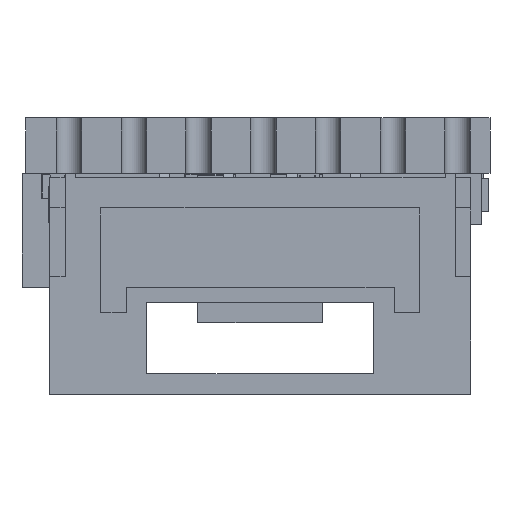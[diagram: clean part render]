
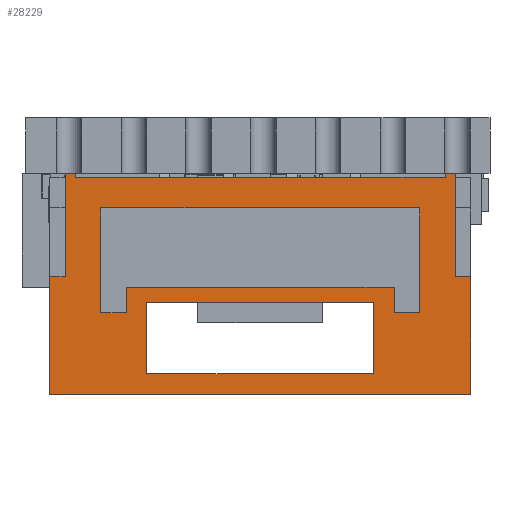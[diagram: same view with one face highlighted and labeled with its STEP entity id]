
A CAD part, front view. The second image highlights one B-rep face of the part: STEP entity #28229.
In plain terms, the highlighted planar face has unit normal (0, -1, 0) as drawn and (0, 0, 1) by its records, which use the part's own axes.
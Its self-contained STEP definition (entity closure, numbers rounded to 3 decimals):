
#27960 = EDGE_CURVE('',#27961,#27963,#27965,.T.);
#27961 = VERTEX_POINT('',#27962);
#27962 = CARTESIAN_POINT('',(-7.95,1.95,4.05));
#27963 = VERTEX_POINT('',#27964);
#27964 = CARTESIAN_POINT('',(-7.95,-0.1,4.05));
#27965 = LINE('',#27966,#27967);
#27966 = CARTESIAN_POINT('',(-7.95,1.95,4.05));
#27967 = VECTOR('',#27968,1.);
#27968 = DIRECTION('',(0.,-1.,0.));
#28002 = VERTEX_POINT('',#28003);
#28003 = CARTESIAN_POINT('',(-7.75,0.,4.05));
#28009 = EDGE_CURVE('',#28002,#28010,#28012,.T.);
#28010 = VERTEX_POINT('',#28011);
#28011 = CARTESIAN_POINT('',(-7.75,-0.1,4.05));
#28012 = LINE('',#28013,#28014);
#28013 = CARTESIAN_POINT('',(-7.75,1.95,4.05));
#28014 = VECTOR('',#28015,1.);
#28015 = DIRECTION('',(0.,-1.,0.));
#28032 = EDGE_CURVE('',#27963,#28010,#28033,.T.);
#28033 = LINE('',#28034,#28035);
#28034 = CARTESIAN_POINT('',(-7.95,-0.1,4.05));
#28035 = VECTOR('',#28036,1.);
#28036 = DIRECTION('',(1.,0.,0.));
#28204 = VERTEX_POINT('',#28205);
#28205 = CARTESIAN_POINT('',(-8.25,1.95,4.05));
#28211 = EDGE_CURVE('',#28212,#28204,#28214,.T.);
#28212 = VERTEX_POINT('',#28213);
#28213 = CARTESIAN_POINT('',(-8.25,4.25,4.05));
#28214 = LINE('',#28215,#28216);
#28215 = CARTESIAN_POINT('',(-8.25,0.,4.05));
#28216 = VECTOR('',#28217,1.);
#28217 = DIRECTION('',(0.,-1.,0.));
#28229 = ADVANCED_FACE('',(#28230,#28296,#28362),#28396,.T.);
#28230 = FACE_BOUND('',#28231,.T.);
#28231 = EDGE_LOOP('',(#28232,#28238,#28239,#28240,#28241,#28249,#28257,
    #28265,#28273,#28281,#28289,#28295));
#28232 = ORIENTED_EDGE('',*,*,#28233,.F.);
#28233 = EDGE_CURVE('',#27961,#28204,#28234,.T.);
#28234 = LINE('',#28235,#28236);
#28235 = CARTESIAN_POINT('',(-7.75,1.95,4.05));
#28236 = VECTOR('',#28237,1.);
#28237 = DIRECTION('',(-1.,0.,0.));
#28238 = ORIENTED_EDGE('',*,*,#27960,.T.);
#28239 = ORIENTED_EDGE('',*,*,#28032,.T.);
#28240 = ORIENTED_EDGE('',*,*,#28009,.F.);
#28241 = ORIENTED_EDGE('',*,*,#28242,.T.);
#28242 = EDGE_CURVE('',#28002,#28243,#28245,.T.);
#28243 = VERTEX_POINT('',#28244);
#28244 = CARTESIAN_POINT('',(-0.5,0.,4.05));
#28245 = LINE('',#28246,#28247);
#28246 = CARTESIAN_POINT('',(0.,0.,4.05));
#28247 = VECTOR('',#28248,1.);
#28248 = DIRECTION('',(1.,0.,0.));
#28249 = ORIENTED_EDGE('',*,*,#28250,.T.);
#28250 = EDGE_CURVE('',#28243,#28251,#28253,.T.);
#28251 = VERTEX_POINT('',#28252);
#28252 = CARTESIAN_POINT('',(-0.5,-0.1,4.05));
#28253 = LINE('',#28254,#28255);
#28254 = CARTESIAN_POINT('',(-0.5,1.95,4.05));
#28255 = VECTOR('',#28256,1.);
#28256 = DIRECTION('',(0.,-1.,0.));
#28257 = ORIENTED_EDGE('',*,*,#28258,.F.);
#28258 = EDGE_CURVE('',#28259,#28251,#28261,.T.);
#28259 = VERTEX_POINT('',#28260);
#28260 = CARTESIAN_POINT('',(-0.3,-0.1,4.05));
#28261 = LINE('',#28262,#28263);
#28262 = CARTESIAN_POINT('',(-0.3,-0.1,4.05));
#28263 = VECTOR('',#28264,1.);
#28264 = DIRECTION('',(-1.,0.,0.));
#28265 = ORIENTED_EDGE('',*,*,#28266,.F.);
#28266 = EDGE_CURVE('',#28267,#28259,#28269,.T.);
#28267 = VERTEX_POINT('',#28268);
#28268 = CARTESIAN_POINT('',(-0.3,1.95,4.05));
#28269 = LINE('',#28270,#28271);
#28270 = CARTESIAN_POINT('',(-0.3,1.95,4.05));
#28271 = VECTOR('',#28272,1.);
#28272 = DIRECTION('',(0.,-1.,0.));
#28273 = ORIENTED_EDGE('',*,*,#28274,.T.);
#28274 = EDGE_CURVE('',#28267,#28275,#28277,.T.);
#28275 = VERTEX_POINT('',#28276);
#28276 = CARTESIAN_POINT('',(0.,1.95,4.05));
#28277 = LINE('',#28278,#28279);
#28278 = CARTESIAN_POINT('',(-0.5,1.95,4.05));
#28279 = VECTOR('',#28280,1.);
#28280 = DIRECTION('',(1.,0.,0.));
#28281 = ORIENTED_EDGE('',*,*,#28282,.T.);
#28282 = EDGE_CURVE('',#28275,#28283,#28285,.T.);
#28283 = VERTEX_POINT('',#28284);
#28284 = CARTESIAN_POINT('',(0.,4.25,4.05));
#28285 = LINE('',#28286,#28287);
#28286 = CARTESIAN_POINT('',(0.,0.,4.05));
#28287 = VECTOR('',#28288,1.);
#28288 = DIRECTION('',(0.,1.,0.));
#28289 = ORIENTED_EDGE('',*,*,#28290,.T.);
#28290 = EDGE_CURVE('',#28283,#28212,#28291,.T.);
#28291 = LINE('',#28292,#28293);
#28292 = CARTESIAN_POINT('',(0.,4.25,4.05));
#28293 = VECTOR('',#28294,1.);
#28294 = DIRECTION('',(-1.,0.,0.));
#28295 = ORIENTED_EDGE('',*,*,#28211,.T.);
#28296 = FACE_BOUND('',#28297,.T.);
#28297 = EDGE_LOOP('',(#28298,#28308,#28316,#28324,#28332,#28340,#28348,
    #28356));
#28298 = ORIENTED_EDGE('',*,*,#28299,.F.);
#28299 = EDGE_CURVE('',#28300,#28302,#28304,.T.);
#28300 = VERTEX_POINT('',#28301);
#28301 = CARTESIAN_POINT('',(-1.5,2.15,4.05));
#28302 = VERTEX_POINT('',#28303);
#28303 = CARTESIAN_POINT('',(-6.75,2.15,4.05));
#28304 = LINE('',#28305,#28306);
#28305 = CARTESIAN_POINT('',(-6.75,2.15,4.05));
#28306 = VECTOR('',#28307,1.);
#28307 = DIRECTION('',(-1.,0.,0.));
#28308 = ORIENTED_EDGE('',*,*,#28309,.F.);
#28309 = EDGE_CURVE('',#28310,#28300,#28312,.T.);
#28310 = VERTEX_POINT('',#28311);
#28311 = CARTESIAN_POINT('',(-1.5,2.65,4.05));
#28312 = LINE('',#28313,#28314);
#28313 = CARTESIAN_POINT('',(-1.5,2.15,4.05));
#28314 = VECTOR('',#28315,1.);
#28315 = DIRECTION('',(0.,-1.,0.));
#28316 = ORIENTED_EDGE('',*,*,#28317,.F.);
#28317 = EDGE_CURVE('',#28318,#28310,#28320,.T.);
#28318 = VERTEX_POINT('',#28319);
#28319 = CARTESIAN_POINT('',(-1.,2.65,4.05));
#28320 = LINE('',#28321,#28322);
#28321 = CARTESIAN_POINT('',(-1.5,2.65,4.05));
#28322 = VECTOR('',#28323,1.);
#28323 = DIRECTION('',(-1.,0.,0.));
#28324 = ORIENTED_EDGE('',*,*,#28325,.F.);
#28325 = EDGE_CURVE('',#28326,#28318,#28328,.T.);
#28326 = VERTEX_POINT('',#28327);
#28327 = CARTESIAN_POINT('',(-1.,0.6,4.05));
#28328 = LINE('',#28329,#28330);
#28329 = CARTESIAN_POINT('',(-1.,0.6,4.05));
#28330 = VECTOR('',#28331,1.);
#28331 = DIRECTION('',(0.,1.,0.));
#28332 = ORIENTED_EDGE('',*,*,#28333,.F.);
#28333 = EDGE_CURVE('',#28334,#28326,#28336,.T.);
#28334 = VERTEX_POINT('',#28335);
#28335 = CARTESIAN_POINT('',(-7.25,0.6,4.05));
#28336 = LINE('',#28337,#28338);
#28337 = CARTESIAN_POINT('',(-7.25,0.6,4.05));
#28338 = VECTOR('',#28339,1.);
#28339 = DIRECTION('',(1.,0.,0.));
#28340 = ORIENTED_EDGE('',*,*,#28341,.F.);
#28341 = EDGE_CURVE('',#28342,#28334,#28344,.T.);
#28342 = VERTEX_POINT('',#28343);
#28343 = CARTESIAN_POINT('',(-7.25,2.65,4.05));
#28344 = LINE('',#28345,#28346);
#28345 = CARTESIAN_POINT('',(-7.25,2.65,4.05));
#28346 = VECTOR('',#28347,1.);
#28347 = DIRECTION('',(0.,-1.,0.));
#28348 = ORIENTED_EDGE('',*,*,#28349,.F.);
#28349 = EDGE_CURVE('',#28350,#28342,#28352,.T.);
#28350 = VERTEX_POINT('',#28351);
#28351 = CARTESIAN_POINT('',(-6.75,2.65,4.05));
#28352 = LINE('',#28353,#28354);
#28353 = CARTESIAN_POINT('',(-7.25,2.65,4.05));
#28354 = VECTOR('',#28355,1.);
#28355 = DIRECTION('',(-1.,0.,0.));
#28356 = ORIENTED_EDGE('',*,*,#28357,.F.);
#28357 = EDGE_CURVE('',#28302,#28350,#28358,.T.);
#28358 = LINE('',#28359,#28360);
#28359 = CARTESIAN_POINT('',(-6.75,2.65,4.05));
#28360 = VECTOR('',#28361,1.);
#28361 = DIRECTION('',(0.,1.,0.));
#28362 = FACE_BOUND('',#28363,.T.);
#28363 = EDGE_LOOP('',(#28364,#28374,#28382,#28390));
#28364 = ORIENTED_EDGE('',*,*,#28365,.F.);
#28365 = EDGE_CURVE('',#28366,#28368,#28370,.T.);
#28366 = VERTEX_POINT('',#28367);
#28367 = CARTESIAN_POINT('',(-6.35,3.85,4.05));
#28368 = VERTEX_POINT('',#28369);
#28369 = CARTESIAN_POINT('',(-6.35,2.45,4.05));
#28370 = LINE('',#28371,#28372);
#28371 = CARTESIAN_POINT('',(-6.35,3.85,4.05));
#28372 = VECTOR('',#28373,1.);
#28373 = DIRECTION('',(0.,-1.,0.));
#28374 = ORIENTED_EDGE('',*,*,#28375,.F.);
#28375 = EDGE_CURVE('',#28376,#28366,#28378,.T.);
#28376 = VERTEX_POINT('',#28377);
#28377 = CARTESIAN_POINT('',(-1.9,3.85,4.05));
#28378 = LINE('',#28379,#28380);
#28379 = CARTESIAN_POINT('',(-6.35,3.85,4.05));
#28380 = VECTOR('',#28381,1.);
#28381 = DIRECTION('',(-1.,0.,0.));
#28382 = ORIENTED_EDGE('',*,*,#28383,.F.);
#28383 = EDGE_CURVE('',#28384,#28376,#28386,.T.);
#28384 = VERTEX_POINT('',#28385);
#28385 = CARTESIAN_POINT('',(-1.9,2.45,4.05));
#28386 = LINE('',#28387,#28388);
#28387 = CARTESIAN_POINT('',(-1.9,3.85,4.05));
#28388 = VECTOR('',#28389,1.);
#28389 = DIRECTION('',(0.,1.,0.));
#28390 = ORIENTED_EDGE('',*,*,#28391,.F.);
#28391 = EDGE_CURVE('',#28368,#28384,#28392,.T.);
#28392 = LINE('',#28393,#28394);
#28393 = CARTESIAN_POINT('',(-6.35,2.45,4.05));
#28394 = VECTOR('',#28395,1.);
#28395 = DIRECTION('',(1.,0.,0.));
#28396 = PLANE('',#28397);
#28397 = AXIS2_PLACEMENT_3D('',#28398,#28399,#28400);
#28398 = CARTESIAN_POINT('',(0.,0.,4.05));
#28399 = DIRECTION('',(0.,0.,1.));
#28400 = DIRECTION('',(1.,0.,0.));
